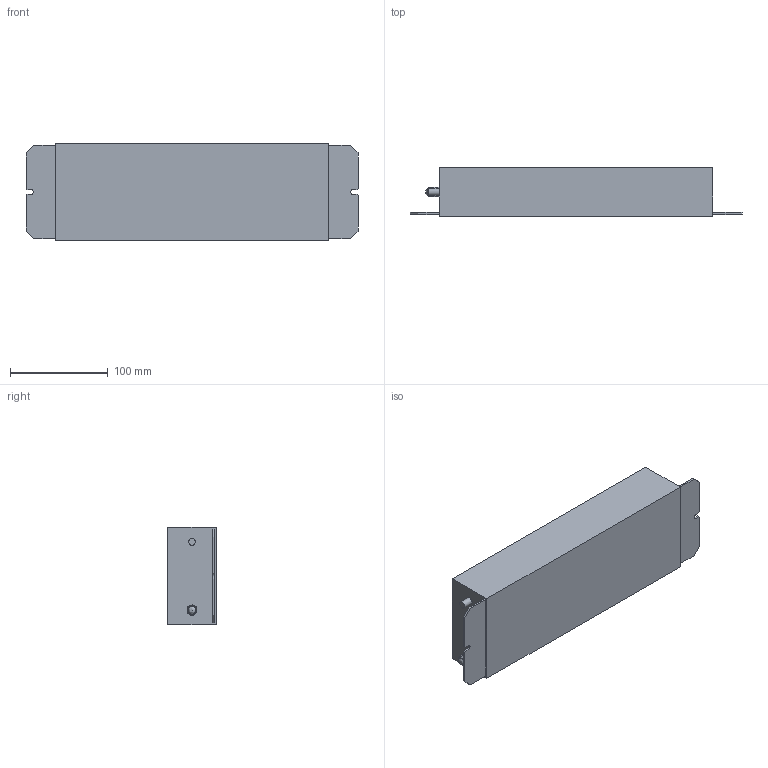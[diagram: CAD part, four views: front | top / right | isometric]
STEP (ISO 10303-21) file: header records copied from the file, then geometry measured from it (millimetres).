
FILE_DESCRIPTION(/* description */ (''),/* implementation_level */ '2;1');
FILE_NAME(/* name */ 'E:\Работа\Веда МК (Данфосс)\!Текущие задачи\2024.08.30 3D модели дросселей\Тормозные резисторы\STP\E54-4.stp',/* time_stamp */ '2024-09-04T07:30:51+04:00',/* author */ ('Александр (огранич)'),/* organization */ (''),/* preprocessor_version */ 'ST-DEVELOPER v18.1',/* originating_system */ 'Autodesk Inventor 2021',/* authorisation */ '');
FILE_SCHEMA (('AUTOMOTIVE_DESIGN { 1 0 10303 214 3 1 1 }'));
Length unit declared in the file: millimetre
Products named in the file (1): E54-1
Bounding box: 340 x 50 x 100 mm (x, y, z)
Volume: 1412587.8 mm3; surface area: 106021.2 mm2
Topology: 1 solids, 1 shells, 51 faces, 132 edges, 86 vertices
Faces by surface type: plane 44, cylinder 4, cone 2, bspline 1
Full cylindrical faces by diameter (mm): 6.928 x1, 10 x1
Entity records: 1608 total; most frequent: CARTESIAN_POINT 331, ORIENTED_EDGE 262, DIRECTION 245, EDGE_CURVE 131, LINE 101, VECTOR 101, VERTEX_POINT 86, AXIS2_PLACEMENT_3D 72
